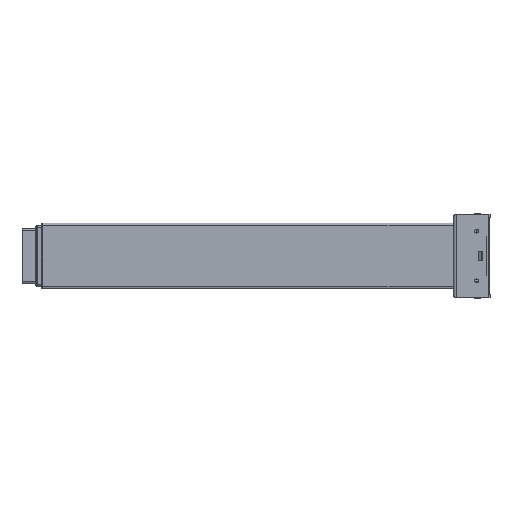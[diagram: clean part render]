
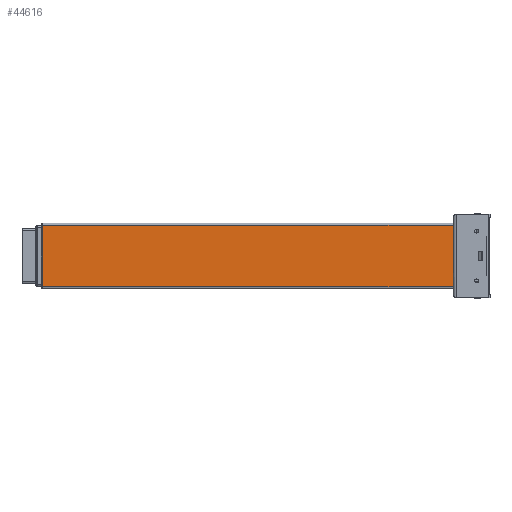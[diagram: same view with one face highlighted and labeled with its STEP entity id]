
A CAD part, left-side view. The second image highlights one B-rep face of the part: STEP entity #44616.
In plain terms, the highlighted planar face has unit normal (-1, 0, 0).
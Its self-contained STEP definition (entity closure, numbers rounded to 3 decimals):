
#1316 = CARTESIAN_POINT ( 'NONE',  ( -26.5, 521.5, -39. ) ) ;
#3637 = CARTESIAN_POINT ( 'NONE',  ( -26.5, 3., -39. ) ) ;
#8770 = VERTEX_POINT ( 'NONE', #3637 ) ;
#10389 = VECTOR ( 'NONE', #62991, 1000. ) ;
#15145 = ORIENTED_EDGE ( 'NONE', *, *, #52284, .T. ) ;
#19933 = EDGE_CURVE ( 'NONE', #63002, #8770, #33306, .T. ) ;
#20023 = CARTESIAN_POINT ( 'NONE',  ( -26.5, 521.5, 39. ) ) ;
#21111 = ORIENTED_EDGE ( 'NONE', *, *, #35271, .F. ) ;
#21883 = VERTEX_POINT ( 'NONE', #46621 ) ;
#23880 = DIRECTION ( 'NONE',  ( 1., 0., 0. ) ) ;
#28590 = VERTEX_POINT ( 'NONE', #57852 ) ;
#29325 = LINE ( 'NONE', #20023, #31157 ) ;
#29461 = PLANE ( 'NONE',  #29532 ) ;
#29532 = AXIS2_PLACEMENT_3D ( 'NONE', #52469, #23880, #63930 ) ;
#31157 = VECTOR ( 'NONE', #60089, 1000. ) ;
#33306 = LINE ( 'NONE', #67941, #46752 ) ;
#35271 = EDGE_CURVE ( 'NONE', #21883, #28590, #59730, .T. ) ;
#36976 = ORIENTED_EDGE ( 'NONE', *, *, #61900, .T. ) ;
#41086 = EDGE_LOOP ( 'NONE', ( #36976, #56820, #15145, #21111 ) ) ;
#44616 = ADVANCED_FACE ( 'NONE', ( #45691 ), #29461, .F. ) ;
#45691 = FACE_OUTER_BOUND ( 'NONE', #41086, .T. ) ;
#46621 = CARTESIAN_POINT ( 'NONE',  ( -26.5, 521.5, -39. ) ) ;
#46752 = VECTOR ( 'NONE', #62230, 1000. ) ;
#51266 = CARTESIAN_POINT ( 'NONE',  ( -26.5, 521.5, 41.5 ) ) ;
#52284 = EDGE_CURVE ( 'NONE', #63002, #28590, #29325, .T. ) ;
#52469 = CARTESIAN_POINT ( 'NONE',  ( -26.5, 521.5, 41.5 ) ) ;
#52778 = LINE ( 'NONE', #1316, #66105 ) ;
#56820 = ORIENTED_EDGE ( 'NONE', *, *, #19933, .F. ) ;
#57852 = CARTESIAN_POINT ( 'NONE',  ( -26.5, 521.5, 39. ) ) ;
#59730 = LINE ( 'NONE', #51266, #10389 ) ;
#60089 = DIRECTION ( 'NONE',  ( 0., 1., 0. ) ) ;
#61900 = EDGE_CURVE ( 'NONE', #21883, #8770, #52778, .T. ) ;
#62230 = DIRECTION ( 'NONE',  ( 0., 0., -1. ) ) ;
#62991 = DIRECTION ( 'NONE',  ( 0., 0., 1. ) ) ;
#63002 = VERTEX_POINT ( 'NONE', #68630 ) ;
#63930 = DIRECTION ( 'NONE',  ( 0., 0., -1. ) ) ;
#64210 = DIRECTION ( 'NONE',  ( 0., -1., 0. ) ) ;
#66105 = VECTOR ( 'NONE', #64210, 1000. ) ;
#67941 = CARTESIAN_POINT ( 'NONE',  ( -26.5, 3., -39. ) ) ;
#68630 = CARTESIAN_POINT ( 'NONE',  ( -26.5, 3., 39. ) ) ;
